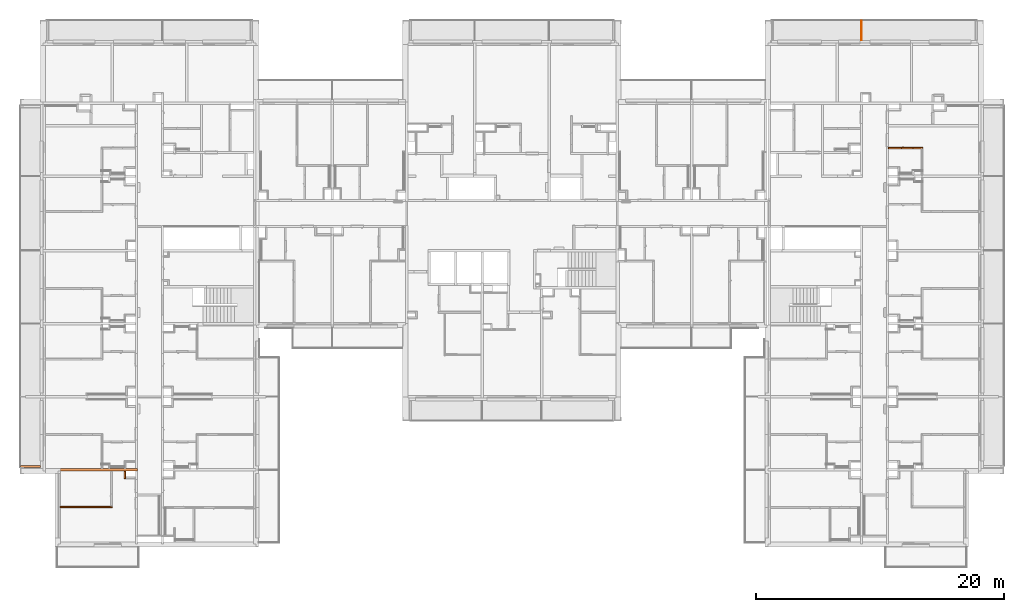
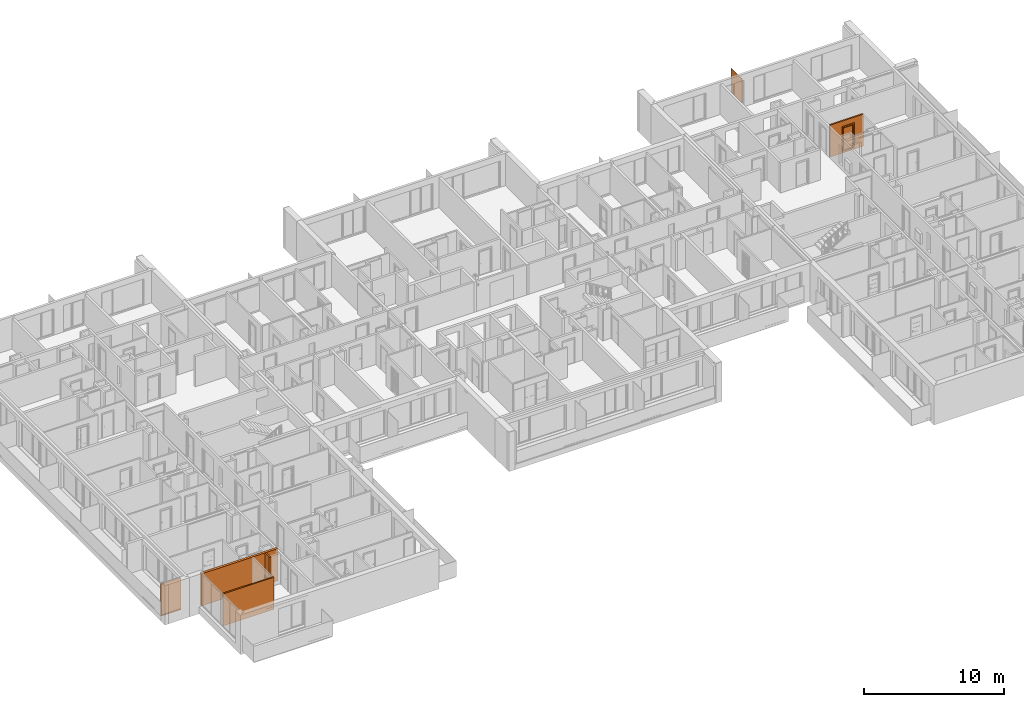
# One storey, part 39 of 67: 7 proxies, 1 opening.
"""IFC2X3 building model written with IfcOpenShell, lengths in millimetres."""

from ifc_helpers import new_model, entity, si_unit, converted_unit, derived_unit, money_unit, direction, frame, origin_with_axes, origin_2d_with_axis, place, context, subcontext, project, spatial, polyline, rectangle, outline, extrude, open_shell, faceted_brep, surface_model, source, transform, mapped, material, type_object, element, fill, save


model = new_model("IFC2X3")

# Units and contexts
model_context = context("Model", 3, precision=0.01, world=origin_with_axes(), true_north=direction((0.34421633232, 0.938890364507)))
body_context = subcontext(model_context, "Body", "Model", "MODEL_VIEW")
ifc_project = project(units=[si_unit("LENGTHUNIT", "METRE", prefix="MILLI"), si_unit("AREAUNIT", "SQUARE_METRE"), si_unit("VOLUMEUNIT", "CUBIC_METRE"), converted_unit("PLANEANGLEUNIT", "DEGREE", entity("IfcPlaneAngleMeasure", 0.0174532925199), si_unit("PLANEANGLEUNIT", "RADIAN"), dimensions=[0, 0, 0, 0, 0, 0, 0]), si_unit("SOLIDANGLEUNIT", "STERADIAN"), money_unit("USD"), converted_unit("TIMEUNIT", "Year", entity("IfcTimeMeasure", 31556926.0), si_unit("TIMEUNIT", "SECOND"), dimensions=[0, 0, 1, 0, 0, 0, 0]), si_unit("MASSUNIT", "GRAM", prefix="KILO"), si_unit("THERMODYNAMICTEMPERATUREUNIT", "DEGREE_CELSIUS"), si_unit("LUMINOUSINTENSITYUNIT", "LUMEN"), si_unit("ENERGYUNIT", "JOULE", prefix="MEGA"), derived_unit("THERMALCONDUCTANCEUNIT", [(si_unit("POWERUNIT", "WATT"), 1), (si_unit("LENGTHUNIT", "METRE"), -1), (si_unit("THERMODYNAMICTEMPERATUREUNIT", "KELVIN"), -1)]), derived_unit("SPECIFICHEATCAPACITYUNIT", [(si_unit("ENERGYUNIT", "JOULE"), 1), (si_unit("MASSUNIT", "GRAM", prefix="KILO"), -1), (si_unit("THERMODYNAMICTEMPERATUREUNIT", "KELVIN"), -1)]), derived_unit("MASSDENSITYUNIT", [(si_unit("MASSUNIT", "GRAM", prefix="KILO"), 1), (si_unit("VOLUMEUNIT", "CUBIC_METRE"), -1)])], contexts=[model_context])

# Site, building, storey
site_placement = place(None, origin_with_axes())
site = spatial("IfcSite", under=ifc_project, at=site_placement, Name="USTRONIE MORSKIE", CompositionType="ELEMENT")
building_placement = place(site_placement, origin_with_axes())
building = spatial("IfcBuilding", under=site, at=building_placement, Name="Budynek", CompositionType="ELEMENT")
storey_placement = place(building_placement, frame((0.0, 0.0, 4000.0), z_axis=(0.0, 0.0, 1.0), x_axis=(1.0, 0.0, 0.0)))
storey = spatial("IfcBuildingStorey", under=building, at=storey_placement, Name="PIĘTRO 1", CompositionType="ELEMENT", Elevation=4000.0)

# Proxies, opening
ifc_material_1 = material(Name="Bloczki silikatowe")
building_element_proxy_type_1 = type_object("IfcBuildingElementProxyType", Name="Bloczki silikatowe 120", PredefinedType="NOTDEFINED")
proxy_1_placement = place(storey_placement, frame((420917.920919, 741061.20794, -180.0), z_axis=(0.0, 0.0, 1.0), x_axis=(-1.0, 0.0, 0.0)))
proxy_1 = element("IfcBuildingElementProxy", 1, at=proxy_1_placement, inside=storey, type_object=building_element_proxy_type_1, material=ifc_material_1, Name="SW-04", context=body_context, shape_type="Brep", body=[
    faceted_brep([(-60.0, 59.9999999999, 2820.0), (-60.0, 59.9999999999, 20.0), (-60.0, -59.9999999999, 20.0), (-60.0, -59.9999999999, 2820.0), (2720.0, 59.9999999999, 2820.0), (2720.0, 59.9999999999, 20.0), (2720.0, -59.9999999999, 20.0), (2720.0, -59.9999999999, 2820.0)], [[[0, 1, 2, 3]], [[4, 5, 1, 0]], [[5, 6, 2, 1]], [[3, 2, 6, 7]], [[0, 3, 7, 4]], [[7, 6, 5, 4]]]),
])
opening_placement = place(proxy_1_placement, frame((1200.0, 0.0, 180.0), z_axis=(0.0, 0.0, 1.0), x_axis=(1.0, 0.0, 0.0)))
opening = element("IfcOpeningElement", 2, at=opening_placement, cuts=proxy_1, Name="Dw.4", context=body_context, shape_type="SweptSolid", body=[
    extrude(rectangle(XDim=920.0, YDim=2070.0, at=origin_2d_with_axis()), frame((0.0, 120.0, 1035.0), z_axis=(0.0, -1.0, 0.0), x_axis=(-1.0, 0.0, 0.0)), (0.0, 0.0, 1.0), 360.0),
    extrude(rectangle(XDim=994.0, YDim=2177.0, at=origin_2d_with_axis()), frame((0.0, 60.0000000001, 1088.5), z_axis=(0.0, -1.0, 0.0), x_axis=(-1.0, 0.0, 0.0)), (0.0, 0.0, -1.0), 120.0),
    extrude(rectangle(XDim=994.0, YDim=2177.0, at=origin_2d_with_axis()), frame((0.0, -59.9999999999, 1088.5), z_axis=(0.0, 1.0, 0.0), x_axis=(-1.0, 0.0, 0.0)), (0.0, 0.0, -1.0), 120.0),
])
building_element_proxy_type_2 = type_object("IfcBuildingElementProxyType", Name="Drzwi 23", PredefinedType="NOTDEFINED")
shared_shape = source(origin_with_axes(), body_context, "Body", "SurfaceModel", [
    faceted_brep([(-460.0, -115.0, 0.0), (-435.0, -115.0, 0.0), (-435.0, -120.0, 0.0), (-460.0, -120.0, 0.0), (-460.0, -115.0, 2070.0), (-435.0, -115.0, 2045.0), (-435.0, -120.0, 2045.0), (-460.0, -120.0, 2070.0)], [[[0, 1, 2, 3]], [[0, 4, 5, 1]], [[1, 5, 6, 2]], [[3, 2, 6, 7]], [[4, 0, 3, 7]], [[5, 4, 7, 6]]]),
    faceted_brep([(460.0, -115.0, 2070.0), (435.0, -115.0, 2045.0), (435.0, -120.0, 2045.0), (460.0, -120.0, 2070.0), (460.0, -115.0, 0.0), (435.0, -115.0, 0.0), (435.0, -120.0, 0.0), (460.0, -120.0, 0.0)], [[[0, 1, 2, 3]], [[0, 4, 5, 1]], [[1, 5, 6, 2]], [[3, 2, 6, 7]], [[4, 0, 3, 7]], [[5, 4, 7, 6]]]),
    faceted_brep([(-435.0, -115.0, 2045.0), (435.0, -115.0, 2045.0), (435.0, -120.0, 2045.0), (-435.0, -120.0, 2045.0), (-460.0, -115.0, 2070.0), (460.0, -115.0, 2070.0), (460.0, -120.0, 2070.0), (-460.0, -120.0, 2070.0)], [[[0, 1, 2, 3]], [[0, 4, 5, 1]], [[1, 5, 6, 2]], [[3, 2, 6, 7]], [[4, 0, 3, 7]], [[5, 4, 7, 6]]]),
    faceted_brep([(-497.0, -139.0, 0.0), (-497.0, -120.0, 0.0), (-447.0, -120.0, 0.0), (-447.0, -139.0, 0.0), (-497.0, -139.0, 2177.0), (-497.0, -120.0, 2177.0), (-447.0, -120.0, 2057.0), (-447.0, -139.0, 2057.0)], [[[0, 1, 2, 3]], [[4, 5, 1, 0]], [[1, 5, 6, 2]], [[3, 2, 6, 7]], [[0, 3, 7, 4]], [[7, 6, 5, 4]]]),
    faceted_brep([(497.0, -139.0, 2177.0), (497.0, -120.0, 2177.0), (447.0, -120.0, 2057.0), (447.0, -139.0, 2057.0), (497.0, -139.0, 0.0), (497.0, -120.0, 0.0), (447.0, -120.0, 0.0), (447.0, -139.0, 0.0)], [[[0, 1, 2, 3]], [[4, 5, 1, 0]], [[1, 5, 6, 2]], [[3, 2, 6, 7]], [[0, 3, 7, 4]], [[7, 6, 5, 4]]]),
    faceted_brep([(-497.0, -139.0, 2177.0), (-497.0, -120.0, 2177.0), (-447.0, -120.0, 2057.0), (-447.0, -139.0, 2057.0), (497.0, -139.0, 2177.0), (497.0, -120.0, 2177.0), (447.0, -120.0, 2057.0), (447.0, -139.0, 2057.0)], [[[0, 1, 2, 3]], [[4, 5, 1, 0]], [[1, 5, 6, 2]], [[3, 2, 6, 7]], [[0, 3, 7, 4]], [[7, 6, 5, 4]]]),
    faceted_brep([(-497.0, 19.0, 0.0), (-447.0, 19.0, 0.0), (-447.0, 0.0, 0.0), (-497.0, 0.0, 0.0), (-497.0, 19.0, 2177.0), (-447.0, 19.0, 2057.0), (-447.0, 0.0, 2057.0), (-497.0, 0.0, 2177.0)], [[[0, 1, 2, 3]], [[0, 4, 5, 1]], [[1, 5, 6, 2]], [[3, 2, 6, 7]], [[4, 0, 3, 7]], [[5, 4, 7, 6]]]),
    faceted_brep([(497.0, 19.0, 2177.0), (447.0, 19.0, 2057.0), (447.0, 0.0, 2057.0), (497.0, 0.0, 2177.0), (497.0, 19.0, 0.0), (447.0, 19.0, 0.0), (447.0, 0.0, 0.0), (497.0, 0.0, 0.0)], [[[0, 1, 2, 3]], [[0, 4, 5, 1]], [[1, 5, 6, 2]], [[3, 2, 6, 7]], [[4, 0, 3, 7]], [[5, 4, 7, 6]]]),
    faceted_brep([(-497.0, 19.0, 2177.0), (-447.0, 19.0, 2057.0), (-447.0, 0.0, 2057.0), (-497.0, 0.0, 2177.0), (497.0, 19.0, 2177.0), (447.0, 19.0, 2057.0), (447.0, 0.0, 2057.0), (497.0, 0.0, 2177.0)], [[[0, 1, 2, 3]], [[0, 4, 5, 1]], [[1, 5, 6, 2]], [[3, 2, 6, 7]], [[4, 0, 3, 7]], [[5, 4, 7, 6]]]),
    faceted_brep([(-400.0, -40.0, 0.0), (-400.0, -40.0, 2000.0), (-400.0, -115.0, 2000.0), (-400.0, -115.0, 0.0), (-412.0, -40.0, 2000.0), (-412.0, -40.0, 0.0), (-412.0, 0.0, 2000.0), (-460.0, 0.0, 2000.0), (-460.0, -115.0, 2000.0), (-460.0, -115.0, 0.0), (-460.0, 0.0, 0.0), (-412.0, 0.0, 0.0)], [[[0, 1, 2, 3]], [[4, 1, 0, 5]], [[4, 6, 7, 8, 2, 1]], [[3, 2, 8, 9]], [[5, 0, 3, 9, 10, 11]], [[6, 4, 5, 11]], [[6, 11, 10, 7]], [[10, 9, 8, 7]]]),
    faceted_brep([(412.0, -40.0, 2000.0), (400.0, -40.0, 2000.0), (400.0, -115.0, 2000.0), (460.0, -115.0, 2000.0), (460.0, 0.0, 2000.0), (412.0, 0.0, 2000.0), (412.0, -40.0, 0.0), (400.0, -40.0, 0.0), (400.0, -115.0, 0.0), (460.0, -115.0, 0.0), (460.0, 0.0, 0.0), (412.0, 0.0, 0.0)], [[[0, 1, 2, 3, 4, 5]], [[1, 0, 6, 7]], [[1, 7, 8, 2]], [[3, 2, 8, 9]], [[4, 3, 9, 10]], [[11, 5, 4, 10]], [[0, 5, 11, 6]], [[6, 11, 10, 9, 8, 7]]]),
    faceted_brep([(-412.0, 0.0, 2012.0), (-412.0, 0.0, 2000.0), (-460.0, 0.0, 2000.0), (-460.0, 0.0, 2070.0), (460.0, 0.0, 2070.0), (460.0, 0.0, 2000.0), (412.0, 0.0, 2000.0), (412.0, 0.0, 2012.0), (-412.0, -40.0, 2012.0), (-412.0, -40.0, 2000.0), (-400.0, -40.0, 2000.0), (-400.0, -115.0, 2000.0), (-460.0, -115.0, 2000.0), (-460.0, -115.0, 2070.0), (460.0, -115.0, 2070.0), (460.0, -115.0, 2000.0), (412.0, -40.0, 2000.0), (400.0, -115.0, 2000.0), (400.0, -40.0, 2000.0), (412.0, -40.0, 2012.0)], [[[0, 1, 2, 3, 4, 5, 6, 7]], [[1, 0, 8, 9]], [[9, 10, 11, 12, 2, 1]], [[2, 12, 13, 3]], [[3, 13, 14, 4]], [[4, 14, 15, 5]], [[16, 6, 5, 15, 17, 18]], [[7, 6, 16, 19]], [[0, 7, 19, 8]], [[16, 18, 10, 9, 8, 19]], [[10, 18, 17, 11]], [[17, 15, 14, 13, 12, 11]]]),
    faceted_brep([(-390.5, -40.0, 1060.0), (-390.5, -43.0, 1060.0), (-333.5, -43.0, 1060.0), (-333.5, -40.0, 1060.0), (-390.5, -40.0, 870.0), (-390.5, -43.0, 870.0), (-333.5, -43.0, 870.0), (-333.5, -40.0, 870.0)], [[[0, 1, 2, 3]], [[4, 5, 1, 0]], [[1, 5, 6, 2]], [[3, 2, 6, 7]], [[0, 3, 7, 4]], [[7, 6, 5, 4]]]),
    faceted_brep([(-362.0, -104.0, 990.0), (-362.0, -111.0, 990.0), (-367.0, -111.0, 991.339745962), (-367.0, -104.0, 991.339745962), (-337.0, -104.0, 990.0), (-337.0, -111.0, 990.0), (-337.0, -111.0, 1010.0), (-362.0, -111.0, 1010.0), (-367.0, -111.0, 1008.66025404), (-370.660254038, -111.0, 1005.0), (-372.0, -111.0, 1000.0), (-370.660254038, -111.0, 995.0), (-370.660254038, -104.0, 995.0), (-372.0, -104.0, 1000.0), (-370.660254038, -104.0, 1005.0), (-367.0, -104.0, 1008.66025404), (-362.0, -104.0, 1010.0), (-337.0, -104.0, 1010.0)], [[[0, 1, 2, 3]], [[4, 5, 1, 0]], [[1, 5, 6, 7, 8, 9, 10, 11, 2]], [[3, 2, 11, 12]], [[0, 3, 12, 13, 14, 15, 16, 17, 4]], [[17, 6, 5, 4]], [[16, 7, 6, 17]], [[15, 8, 7, 16]], [[14, 9, 8, 15]], [[13, 10, 9, 14]], [[12, 11, 10, 13]]]),
    surface_model("IfcShellBasedSurfaceModel", [(-337.0, -104.0, 1010.0), (-323.596090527, -111.0, 1009.60730092), (-323.901717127, -104.0, 1009.60730092), (-337.0, -111.0, 1010.0), (-296.890283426, -108.663544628, 1008.82190275), (-323.901717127, -104.0, 990.392699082), (-337.0, -104.0, 990.0), (-337.0, -111.0, 990.0), (-323.596090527, -111.0, 990.392699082), (-296.890283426, -108.663544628, 991.178097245), (-297.804837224, -101.716818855, 1008.82190275), (-297.804837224, -101.716818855, 991.178097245), (-270.489735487, -104.008415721, 991.963495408), (-270.489735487, -104.008415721, 1008.03650459), (-272.006256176, -97.1678329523, 1008.03650459), (-272.006256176, -97.1678329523, 991.963495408), (-244.59537082, -97.0700416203, 992.748893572), (-244.59537082, -97.0700416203, 1007.25110643), (-246.702316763, -90.3876628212, 1007.25110643), (-246.702316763, -90.3876628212, 992.748893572), (-236.538795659, -94.1376880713, 993.0), (-236.538795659, -94.1376880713, 1007.0), (-238.829442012, -87.5221707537, 1007.0), (-238.829442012, -87.5221707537, 993.0)], [open_shell([[[0, 1, 2]], [[0, 3, 1]], [[2, 1, 4]], [[0, 2, 5, 6]], [[3, 7, 8, 1]], [[1, 8, 9, 4]], [[2, 4, 10]], [[2, 10, 11, 5]], [[5, 7, 6]], [[5, 8, 7]], [[11, 9, 8]], [[4, 9, 12, 13]], [[10, 4, 13]], [[10, 14, 15, 11]], [[11, 8, 5]], [[15, 9, 11]], [[15, 12, 9]], [[13, 12, 16, 17]], [[10, 13, 14]], [[14, 18, 19, 15]], [[19, 12, 15]], [[19, 16, 12]], [[17, 16, 20, 21]], [[14, 13, 17]], [[14, 17, 18]], [[18, 22, 23, 19]], [[23, 16, 19]], [[23, 20, 16]], [[22, 21, 20, 23]], [[18, 17, 21]], [[18, 21, 22]]])]),
    faceted_brep([(-351.607695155, -53.0, 994.0), (-350.741669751, -43.0, 993.5), (-349.0, -43.0, 1000.0), (-350.0, -53.0, 1000.0), (-356.0, -53.0, 989.607695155), (-355.5, -43.0, 988.741669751), (-362.0, -43.0, 987.0), (-368.5, -43.0, 988.741669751), (-373.258330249, -43.0, 993.5), (-375.0, -43.0, 1000.0), (-373.258330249, -43.0, 1006.5), (-368.5, -43.0, 1011.25833025), (-362.0, -43.0, 1013.0), (-355.5, -43.0, 1011.25833025), (-350.741669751, -43.0, 1006.5), (-351.607695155, -53.0, 1006.0), (-356.0, -53.0, 1010.39230485), (-362.0, -53.0, 1012.0), (-368.0, -53.0, 1010.39230485), (-372.392304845, -53.0, 1006.0), (-374.0, -53.0, 1000.0), (-372.392304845, -53.0, 994.0), (-368.0, -53.0, 989.607695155), (-362.0, -53.0, 988.0)], [[[0, 1, 2, 3]], [[4, 5, 1, 0]], [[2, 1, 5, 6, 7, 8, 9, 10, 11, 12, 13, 14]], [[3, 2, 14, 15]], [[3, 15, 16, 17, 18, 19, 20, 21, 22, 23, 4, 0]], [[23, 6, 5, 4]], [[22, 7, 6, 23]], [[21, 8, 7, 22]], [[20, 9, 8, 21]], [[19, 10, 9, 20]], [[18, 11, 10, 19]], [[17, 12, 11, 18]], [[16, 13, 12, 17]], [[15, 14, 13, 16]]]),
    faceted_brep([(-344.679491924, -47.0, 895.0), (-342.947441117, -43.0, 894.0), (-340.0, -43.0, 905.0), (-342.0, -47.0, 905.0), (-352.0, -47.0, 887.679491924), (-351.0, -43.0, 885.947441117), (-362.0, -43.0, 883.0), (-373.0, -43.0, 885.947441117), (-381.052558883, -43.0, 894.0), (-384.0, -43.0, 905.0), (-381.052558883, -43.0, 916.0), (-373.0, -43.0, 924.052558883), (-362.0, -43.0, 927.0), (-351.0, -43.0, 924.052558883), (-342.947441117, -43.0, 916.0), (-344.679491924, -47.0, 915.0), (-352.0, -47.0, 922.320508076), (-362.0, -47.0, 925.0), (-372.0, -47.0, 922.320508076), (-379.320508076, -47.0, 915.0), (-382.0, -47.0, 905.0), (-379.320508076, -47.0, 895.0), (-372.0, -47.0, 887.679491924), (-362.0, -47.0, 885.0)], [[[0, 1, 2, 3]], [[4, 5, 1, 0]], [[2, 1, 5, 6, 7, 8, 9, 10, 11, 12, 13, 14]], [[3, 2, 14, 15]], [[3, 15, 16, 17, 18, 19, 20, 21, 22, 23, 4, 0]], [[23, 6, 5, 4]], [[22, 7, 6, 23]], [[21, 8, 7, 22]], [[20, 9, 8, 21]], [[19, 10, 9, 20]], [[18, 11, 10, 19]], [[17, 12, 11, 18]], [[16, 13, 12, 17]], [[15, 14, 13, 16]]]),
    faceted_brep([(-357.050252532, -49.0, 909.050252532), (-356.343145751, -47.0, 908.343145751), (-354.0, -47.0, 914.0), (-355.0, -49.0, 914.0), (-362.0, -49.0, 907.0), (-362.0, -47.0, 906.0), (-367.656854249, -47.0, 908.343145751), (-370.0, -47.0, 914.0), (-367.656854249, -47.0, 919.656854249), (-362.0, -47.0, 922.0), (-356.343145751, -47.0, 919.656854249), (-357.050252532, -49.0, 918.949747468), (-362.0, -49.0, 921.0), (-366.949747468, -49.0, 918.949747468), (-369.0, -49.0, 914.0), (-366.949747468, -49.0, 909.050252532)], [[[0, 1, 2, 3]], [[4, 5, 1, 0]], [[2, 1, 5, 6, 7, 8, 9, 10]], [[3, 2, 10, 11]], [[3, 11, 12, 13, 14, 15, 4, 0]], [[15, 6, 5, 4]], [[14, 7, 6, 15]], [[13, 8, 7, 14]], [[12, 9, 8, 13]], [[11, 10, 9, 12]]]),
    faceted_brep([(-362.0, -53.0, 1010.0), (-362.0, -104.0, 1010.0), (-357.0, -104.0, 1008.66025404), (-357.0, -53.0, 1008.66025404), (-367.0, -53.0, 1008.66025404), (-367.0, -104.0, 1008.66025404), (-370.660254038, -104.0, 1005.0), (-372.0, -104.0, 1000.0), (-370.660254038, -104.0, 995.0), (-367.0, -104.0, 991.339745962), (-362.0, -104.0, 990.0), (-357.0, -104.0, 991.339745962), (-353.339745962, -104.0, 995.0), (-352.0, -104.0, 1000.0), (-353.339745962, -104.0, 1005.0), (-353.339745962, -53.0, 1005.0), (-352.0, -53.0, 1000.0), (-353.339745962, -53.0, 995.0), (-357.0, -53.0, 991.339745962), (-362.0, -53.0, 990.0), (-367.0, -53.0, 991.339745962), (-370.660254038, -53.0, 995.0), (-372.0, -53.0, 1000.0), (-370.660254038, -53.0, 1005.0)], [[[0, 1, 2, 3]], [[4, 5, 1, 0]], [[1, 5, 6, 7, 8, 9, 10, 11, 12, 13, 14, 2]], [[3, 2, 14, 15]], [[0, 3, 15, 16, 17, 18, 19, 20, 21, 22, 23, 4]], [[23, 6, 5, 4]], [[22, 7, 6, 23]], [[21, 8, 7, 22]], [[20, 9, 8, 21]], [[19, 10, 9, 20]], [[18, 11, 10, 19]], [[17, 12, 11, 18]], [[16, 13, 12, 17]], [[15, 14, 13, 16]]]),
    faceted_brep([(-390.5, 0.0, 1060.0), (-333.5, 0.0, 1060.0), (-333.5, 3.0, 1060.0), (-390.5, 3.0, 1060.0), (-390.5, 0.0, 870.0), (-333.5, 0.0, 870.0), (-333.5, 3.0, 870.0), (-390.5, 3.0, 870.0)], [[[0, 1, 2, 3]], [[0, 4, 5, 1]], [[1, 5, 6, 2]], [[3, 2, 6, 7]], [[4, 0, 3, 7]], [[5, 4, 7, 6]]]),
    faceted_brep([(-362.0, 64.0, 990.0), (-367.0, 64.0, 991.339745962), (-367.0, 71.0, 991.339745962), (-362.0, 71.0, 990.0), (-337.0, 64.0, 990.0), (-337.0, 64.0, 1010.0), (-362.0, 64.0, 1010.0), (-367.0, 64.0, 1008.66025404), (-370.660254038, 64.0, 1005.0), (-372.0, 64.0, 1000.0), (-370.660254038, 64.0, 995.0), (-370.660254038, 71.0, 995.0), (-372.0, 71.0, 1000.0), (-370.660254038, 71.0, 1005.0), (-367.0, 71.0, 1008.66025404), (-362.0, 71.0, 1010.0), (-337.0, 71.0, 1010.0), (-337.0, 71.0, 990.0)], [[[0, 1, 2, 3]], [[0, 4, 5, 6, 7, 8, 9, 10, 1]], [[1, 10, 11, 2]], [[3, 2, 11, 12, 13, 14, 15, 16, 17]], [[4, 0, 3, 17]], [[5, 4, 17, 16]], [[6, 5, 16, 15]], [[7, 6, 15, 14]], [[8, 7, 14, 13]], [[9, 8, 13, 12]], [[10, 9, 12, 11]]]),
    surface_model("IfcShellBasedSurfaceModel", [(-337.0, 64.0, 1010.0), (-323.901717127, 64.0, 1009.60730092), (-323.596090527, 71.0, 1009.60730092), (-337.0, 64.0, 990.0), (-323.901717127, 64.0, 990.392699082), (-296.890283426, 68.6635446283, 1008.82190275), (-337.0, 71.0, 1010.0), (-337.0, 71.0, 990.0), (-297.804837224, 61.716818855, 991.178097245), (-297.804837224, 61.716818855, 1008.82190275), (-296.890283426, 68.6635446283, 991.178097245), (-323.596090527, 71.0, 990.392699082), (-272.006256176, 57.1678329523, 991.963495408), (-272.006256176, 57.1678329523, 1008.03650459), (-270.489735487, 64.0084157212, 1008.03650459), (-270.489735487, 64.0084157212, 991.963495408), (-246.702316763, 50.3876628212, 992.748893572), (-246.702316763, 50.3876628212, 1007.25110643), (-244.59537082, 57.0700416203, 1007.25110643), (-244.59537082, 57.0700416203, 992.748893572), (-238.829442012, 47.5221707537, 993.0), (-238.829442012, 47.5221707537, 1007.0), (-236.538795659, 54.1376880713, 1007.0), (-236.538795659, 54.1376880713, 993.0)], [open_shell([[[0, 1, 2]], [[0, 3, 4, 1]], [[1, 5, 2]], [[0, 2, 6]], [[4, 3, 7]], [[1, 4, 8, 9]], [[1, 9, 5]], [[2, 5, 10, 11]], [[6, 2, 11, 7]], [[4, 7, 11]], [[8, 4, 11]], [[9, 8, 12, 13]], [[9, 14, 5]], [[5, 14, 15, 10]], [[8, 11, 10]], [[12, 8, 10]], [[13, 12, 16, 17]], [[9, 13, 14]], [[14, 18, 19, 15]], [[12, 10, 15]], [[16, 12, 15]], [[17, 16, 20, 21]], [[13, 17, 18]], [[13, 18, 14]], [[18, 22, 23, 19]], [[16, 15, 19]], [[20, 16, 19]], [[21, 20, 23, 22]], [[17, 21, 22]], [[17, 22, 18]], [[20, 19, 23]]])]),
    faceted_brep([(-351.607695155, 13.0, 994.0), (-350.0, 13.0, 1000.0), (-349.0, 3.0, 1000.0), (-350.741669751, 3.0, 993.5), (-356.0, 13.0, 989.607695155), (-362.0, 13.0, 988.0), (-368.0, 13.0, 989.607695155), (-372.392304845, 13.0, 994.0), (-374.0, 13.0, 1000.0), (-372.392304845, 13.0, 1006.0), (-368.0, 13.0, 1010.39230485), (-362.0, 13.0, 1012.0), (-356.0, 13.0, 1010.39230485), (-351.607695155, 13.0, 1006.0), (-350.741669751, 3.0, 1006.5), (-355.5, 3.0, 1011.25833025), (-362.0, 3.0, 1013.0), (-368.5, 3.0, 1011.25833025), (-373.258330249, 3.0, 1006.5), (-375.0, 3.0, 1000.0), (-373.258330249, 3.0, 993.5), (-368.5, 3.0, 988.741669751), (-362.0, 3.0, 987.0), (-355.5, 3.0, 988.741669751)], [[[0, 1, 2, 3]], [[1, 0, 4, 5, 6, 7, 8, 9, 10, 11, 12, 13]], [[1, 13, 14, 2]], [[2, 14, 15, 16, 17, 18, 19, 20, 21, 22, 23, 3]], [[4, 0, 3, 23]], [[5, 4, 23, 22]], [[6, 5, 22, 21]], [[7, 6, 21, 20]], [[8, 7, 20, 19]], [[9, 8, 19, 18]], [[10, 9, 18, 17]], [[11, 10, 17, 16]], [[12, 11, 16, 15]], [[13, 12, 15, 14]]]),
    faceted_brep([(-344.679491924, 7.0, 895.0), (-342.0, 7.0, 905.0), (-340.0, 3.0, 905.0), (-342.947441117, 3.0, 894.0), (-352.0, 7.0, 887.679491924), (-362.0, 7.0, 885.0), (-372.0, 7.0, 887.679491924), (-379.320508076, 7.0, 895.0), (-382.0, 7.0, 905.0), (-379.320508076, 7.0, 915.0), (-372.0, 7.0, 922.320508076), (-362.0, 7.0, 925.0), (-352.0, 7.0, 922.320508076), (-344.679491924, 7.0, 915.0), (-342.947441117, 3.0, 916.0), (-351.0, 3.0, 924.052558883), (-362.0, 3.0, 927.0), (-373.0, 3.0, 924.052558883), (-381.052558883, 3.0, 916.0), (-384.0, 3.0, 905.0), (-381.052558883, 3.0, 894.0), (-373.0, 3.0, 885.947441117), (-362.0, 3.0, 883.0), (-351.0, 3.0, 885.947441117)], [[[0, 1, 2, 3]], [[1, 0, 4, 5, 6, 7, 8, 9, 10, 11, 12, 13]], [[1, 13, 14, 2]], [[2, 14, 15, 16, 17, 18, 19, 20, 21, 22, 23, 3]], [[4, 0, 3, 23]], [[5, 4, 23, 22]], [[6, 5, 22, 21]], [[7, 6, 21, 20]], [[8, 7, 20, 19]], [[9, 8, 19, 18]], [[10, 9, 18, 17]], [[11, 10, 17, 16]], [[12, 11, 16, 15]], [[13, 12, 15, 14]]]),
    faceted_brep([(-357.050252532, 9.0, 909.050252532), (-355.0, 9.0, 914.0), (-354.0, 7.0, 914.0), (-356.343145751, 7.0, 908.343145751), (-362.0, 9.0, 907.0), (-366.949747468, 9.0, 909.050252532), (-369.0, 9.0, 914.0), (-366.949747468, 9.0, 918.949747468), (-362.0, 9.0, 921.0), (-357.050252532, 9.0, 918.949747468), (-356.343145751, 7.0, 919.656854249), (-362.0, 7.0, 922.0), (-367.656854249, 7.0, 919.656854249), (-370.0, 7.0, 914.0), (-367.656854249, 7.0, 908.343145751), (-362.0, 7.0, 906.0)], [[[0, 1, 2, 3]], [[1, 0, 4, 5, 6, 7, 8, 9]], [[1, 9, 10, 2]], [[2, 10, 11, 12, 13, 14, 15, 3]], [[4, 0, 3, 15]], [[5, 4, 15, 14]], [[6, 5, 14, 13]], [[7, 6, 13, 12]], [[8, 7, 12, 11]], [[9, 8, 11, 10]]]),
    faceted_brep([(-362.0, 13.0, 1010.0), (-357.0, 13.0, 1008.66025404), (-357.0, 64.0, 1008.66025404), (-362.0, 64.0, 1010.0), (-367.0, 13.0, 1008.66025404), (-370.660254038, 13.0, 1005.0), (-372.0, 13.0, 1000.0), (-370.660254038, 13.0, 995.0), (-367.0, 13.0, 991.339745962), (-362.0, 13.0, 990.0), (-357.0, 13.0, 991.339745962), (-353.339745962, 13.0, 995.0), (-352.0, 13.0, 1000.0), (-353.339745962, 13.0, 1005.0), (-353.339745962, 64.0, 1005.0), (-352.0, 64.0, 1000.0), (-353.339745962, 64.0, 995.0), (-357.0, 64.0, 991.339745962), (-362.0, 64.0, 990.0), (-367.0, 64.0, 991.339745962), (-370.660254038, 64.0, 995.0), (-372.0, 64.0, 1000.0), (-370.660254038, 64.0, 1005.0), (-367.0, 64.0, 1008.66025404)], [[[0, 1, 2, 3]], [[0, 4, 5, 6, 7, 8, 9, 10, 11, 12, 13, 1]], [[1, 13, 14, 2]], [[3, 2, 14, 15, 16, 17, 18, 19, 20, 21, 22, 23]], [[4, 0, 3, 23]], [[5, 4, 23, 22]], [[6, 5, 22, 21]], [[7, 6, 21, 20]], [[8, 7, 20, 19]], [[9, 8, 19, 18]], [[10, 9, 18, 17]], [[11, 10, 17, 16]], [[12, 11, 16, 15]], [[13, 12, 15, 14]]]),
    faceted_brep([(412.0, 0.0, 0.0), (412.0, -40.0, 0.0), (-412.0, -40.0, 0.0), (-412.0, 0.0, 0.0), (412.0, 0.0, 2012.0), (412.0, -40.0, 2012.0), (-412.0, -40.0, 2012.0), (-412.0, 0.0, 2012.0)], [[[0, 1, 2, 3]], [[4, 5, 1, 0]], [[1, 5, 6, 2]], [[3, 2, 6, 7]], [[0, 3, 7, 4]], [[7, 6, 5, 4]]]),
])
proxy_2_placement = place(opening_placement, frame((400.0, 0.0, 0.0), z_axis=(0.0, 0.0, 1.0), x_axis=(-1.0, 0.0, 0.0)))
proxy_2 = element("IfcBuildingElementProxy", 3, at=proxy_2_placement, inside=storey, type_object=building_element_proxy_type_2, Name="Dw.4", context=body_context, shape_type="MappedRepresentation", body=[
    mapped(shared_shape, transform((400.0, 59.9999999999, 0.0))),
])
fill(opening, proxy_2)

# Proxies
proxy_3_placement = place(storey_placement, frame((351367.920919, 712121.199036, -160.0), z_axis=(0.0, 0.0, 1.0), x_axis=(1.0, 0.0, 0.0)))
element("IfcBuildingElementProxy", 4, at=proxy_3_placement, inside=storey, type_object=building_element_proxy_type_1, material=ifc_material_1, Name="SW-04", context=body_context, shape_type="Brep", body=[
    faceted_brep([(4210.0, 59.9999999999, 0.0), (4210.0, -59.9999999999, 0.0), (0.0, -59.9999999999, 0.0), (0.0, 59.9999999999, 0.0), (4210.0, 59.9999999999, 2800.0), (4210.0, -59.9999999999, 2800.0), (0.0, -59.9999999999, 2800.0), (0.0, 59.9999999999, 2800.0)], [[[0, 1, 2, 3]], [[1, 0, 4, 5]], [[1, 5, 6, 2]], [[7, 3, 2, 6]], [[4, 0, 3, 7]], [[5, 4, 7, 6]]]),
])
building_element_proxy_type_3 = type_object("IfcBuildingElementProxyType", Name="Bloczki silikatowe 150", PredefinedType="NOTDEFINED")
proxy_4_placement = place(storey_placement, frame((356592.920018, 715101.199036, -160.0), z_axis=(0.0, 0.0, 1.0), x_axis=(0.0, -1.0, 0.0)))
element("IfcBuildingElementProxy", 5, at=proxy_4_placement, inside=storey, type_object=building_element_proxy_type_3, material=ifc_material_1, Name="SW-03", context=body_context, shape_type="Brep", body=[
    faceted_brep([(700.001977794, 75.0, 0.0), (100.0, 75.0006758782, 0.0), (100.0, 75.0006758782, 2800.0), (700.001977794, 75.0, 2800.0), (700.001977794, -75.0, 0.0), (100.0, -74.9993241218, 0.0), (100.0, -74.9993241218, 2800.0), (700.001977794, -75.0, 2800.0)], [[[0, 1, 2, 3]], [[4, 5, 1, 0]], [[5, 6, 2, 1]], [[3, 2, 6, 7]], [[4, 0, 3, 7]], [[7, 6, 5, 4]]]),
])
ifc_material_2 = material(Name="Beton konstrukcyjny B25")
building_element_proxy_type_4 = type_object("IfcBuildingElementProxyType", Name="Beton konstrukcyjny B25 200", PredefinedType="NOTDEFINED")
proxy_5_placement = place(storey_placement, frame((351267.920919, 715101.199036, -160.0), z_axis=(0.0, 0.0, 1.0), x_axis=(1.0, 0.0, 0.0)))
element("IfcBuildingElementProxy", 6, at=proxy_5_placement, inside=storey, type_object=building_element_proxy_type_4, material=ifc_material_2, Name="SW-01", context=body_context, shape_type="Brep", body=[
    faceted_brep([(6330.0, -100.0, 0.0), (0.0, -100.0, 0.0), (0.0, 100.0, 0.0), (6330.0, 100.0, 0.0), (6330.0, -100.0, 2800.0), (0.0, -100.0, 2800.0), (0.0, 100.0, 2800.0), (6330.0, 100.0, 2800.0)], [[[0, 1, 2, 3]], [[4, 5, 1, 0]], [[1, 5, 6, 2]], [[3, 2, 6, 7]], [[7, 4, 0, 3]], [[7, 6, 5, 4]]]),
])
ifc_material_3 = material(Name="Woda")
building_element_proxy_type_5 = type_object("IfcBuildingElementProxyType", Name="Woda 30", PredefinedType="NOTDEFINED")
proxy_6_placement = place(storey_placement, frame((416017.920941, 749771.199036, 20.0), z_axis=(0.0, 0.0, 1.0), x_axis=(0.0, 1.0, 0.0)))
element("IfcBuildingElementProxy", 7, at=proxy_6_placement, inside=storey, type_object=building_element_proxy_type_5, material=ifc_material_3, Name="Œciana-007", context=body_context, shape_type="SweptSolid", body=[
    extrude(outline(polyline([(0.0, -15.0), (1569.98576119, -15.0), (1569.98576119, 15.0), (0.0, 15.0), (0.0, -15.0)])), origin_with_axes(), (0.0, 0.0, 1.0), 2120.0),
])
ifc_material_4 = material(Name="Laminat")
building_element_proxy_type_6 = type_object("IfcBuildingElementProxyType", Name="Laminat 150", PredefinedType="NOTDEFINED")
proxy_7_placement = place(storey_placement, frame((349757.921003, 715386.199036, -160.0), z_axis=(0.0, 0.0, 1.0), x_axis=(-1.0, 0.0, 0.0)))
element("IfcBuildingElementProxy", 8, at=proxy_7_placement, inside=storey, type_object=building_element_proxy_type_6, material=ifc_material_4, context=body_context, shape_type="Brep", body=[
    faceted_brep([(1600.03040031, -75.0, 2789.99999183), (1600.03040031, -75.0, 9.99998839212), (1600.03040031, 75.0, 9.99998839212), (1600.03040031, 75.0, 2789.99999183), (0.0, -75.0, 2789.99999183), (0.0, -75.0, 10.0000049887), (4.99981883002, -75.0, 129.999998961), (1589.99981883, -75.0, 129.999998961), (1589.99981883, -75.0, 14.999998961), (1564.99981883, -75.0, 14.999998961), (1564.99981883, -75.0, 104.999998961), (4.99981883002, -75.0, 104.999998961), (0.0, 75.0, 10.0000049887), (0.0, 75.0, 2789.99999183), (1564.9998184, 75.0000050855, 14.999998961), (1589.9998184, 75.0000051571, 14.999998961), (1589.9998184, 75.0000051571, 129.999998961), (4.99981840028, 75.0000006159, 129.999998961), (4.99981840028, 75.0000006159, 104.999998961), (1564.9998184, 75.0000050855, 104.999998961)], [[[0, 1, 2, 3]], [[4, 5, 1, 0], [6, 7, 8, 9, 10, 11]], [[12, 2, 1, 5]], [[3, 2, 12, 13], [14, 15, 16, 17, 18, 19]], [[4, 0, 3, 13]], [[4, 13, 12, 5]], [[17, 16, 7, 6]], [[7, 16, 15, 8]], [[9, 8, 15, 14]], [[9, 14, 19, 10]], [[10, 19, 18, 11]], [[11, 18, 17, 6]]]),
])

save(model, "model.ifc")
